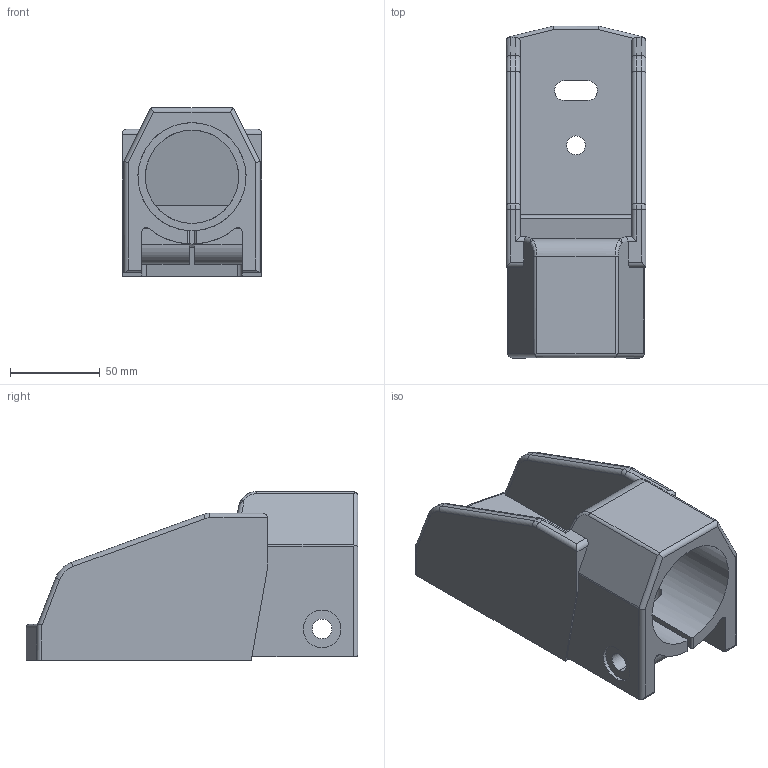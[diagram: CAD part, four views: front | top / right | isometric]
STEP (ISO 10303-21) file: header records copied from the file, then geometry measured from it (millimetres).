
FILE_DESCRIPTION (( 'STEP AP214' ), '1' );
FILE_NAME ('331 6.step', '2017-04-05T07:52:06', ( '' ), ( '' ), 'SwSTEP 2.0', 'SolidWorks 2015', '' );
FILE_SCHEMA (( 'AUTOMOTIVE_DESIGN' ));
Length unit declared in the file: millimetre
Products named in the file (1): 331 6
Bounding box: 78 x 185 x 94 mm (x, y, z)
Volume: 392179 mm3; surface area: 114298.8 mm2
Topology: 1 solids, 1 shells, 284 faces, 769 edges, 500 vertices
Faces by surface type: cylinder 152, plane 117, torus 8, bspline 5, sphere 2
Entity records: 9392 total; most frequent: CARTESIAN_POINT 2132, ORIENTED_EDGE 1534, DIRECTION 1528, EDGE_CURVE 767, AXIS2_PLACEMENT_3D 550, VERTEX_POINT 500, LINE 428, VECTOR 428
